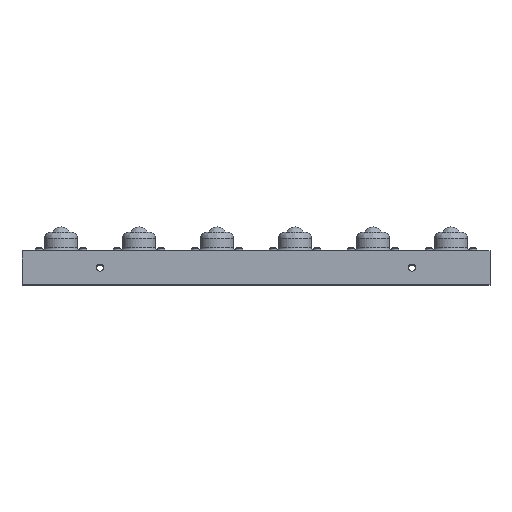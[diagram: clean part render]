
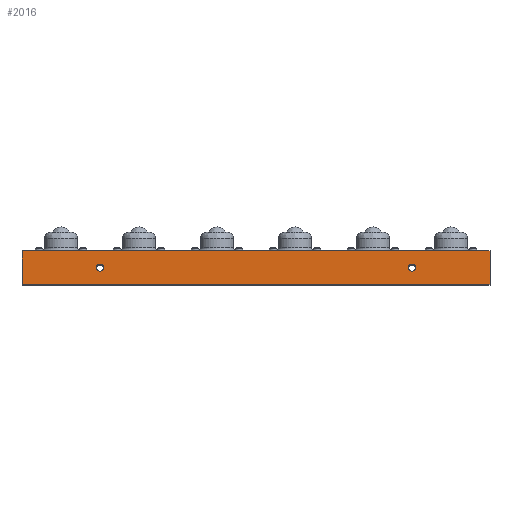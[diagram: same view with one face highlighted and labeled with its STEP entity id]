
A CAD part, top view. The second image highlights one B-rep face of the part: STEP entity #2016.
In plain terms, the highlighted planar face has unit normal (0, 0, 1).
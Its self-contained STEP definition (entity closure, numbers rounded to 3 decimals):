
#582 = EDGE_CURVE ( 'NONE', #2989, #5038, #9384, .T. ) ;
#655 = DIRECTION ( 'NONE',  ( 0., 0., -1. ) ) ;
#808 = CARTESIAN_POINT ( 'NONE',  ( -195.5, 21.5, 300. ) ) ;
#1063 = CARTESIAN_POINT ( 'NONE',  ( 195.5, 21.5, 300. ) ) ;
#1068 = DIRECTION ( 'NONE',  ( 0., 0., 1. ) ) ;
#1641 = VECTOR ( 'NONE', #7243, 1000. ) ;
#1719 = EDGE_CURVE ( 'NONE', #5038, #2989, #11793, .T. ) ;
#1766 = EDGE_LOOP ( 'NONE', ( #2983, #2296 ) ) ;
#1854 = EDGE_CURVE ( 'NONE', #9978, #4072, #1970, .T. ) ;
#1970 = LINE ( 'NONE', #2268, #1641 ) ;
#2016 = ADVANCED_FACE ( 'NONE', ( #8466, #5766, #6095 ), #9759, .F. ) ;
#2268 = CARTESIAN_POINT ( 'NONE',  ( 0., 43., 300. ) ) ;
#2296 = ORIENTED_EDGE ( 'NONE', *, *, #582, .F. ) ;
#2554 = EDGE_LOOP ( 'NONE', ( #9268, #8564 ) ) ;
#2556 = CARTESIAN_POINT ( 'NONE',  ( -300., 0., 300. ) ) ;
#2908 = CARTESIAN_POINT ( 'NONE',  ( -200., 21.5, 300. ) ) ;
#2983 = ORIENTED_EDGE ( 'NONE', *, *, #1719, .F. ) ;
#2989 = VERTEX_POINT ( 'NONE', #1063 ) ;
#3073 = CARTESIAN_POINT ( 'NONE',  ( 300., 43., 300. ) ) ;
#3266 = EDGE_CURVE ( 'NONE', #9978, #3696, #10123, .T. ) ;
#3605 = VECTOR ( 'NONE', #7226, 1000. ) ;
#3696 = VERTEX_POINT ( 'NONE', #4112 ) ;
#3768 = EDGE_CURVE ( 'NONE', #3696, #8408, #11713, .T. ) ;
#3931 = DIRECTION ( 'NONE',  ( 1., 0., 0. ) ) ;
#3944 = CARTESIAN_POINT ( 'NONE',  ( -300., 43., 300. ) ) ;
#4072 = VERTEX_POINT ( 'NONE', #3944 ) ;
#4112 = CARTESIAN_POINT ( 'NONE',  ( 300., 0., 300. ) ) ;
#4150 = CARTESIAN_POINT ( 'NONE',  ( 200., 21.5, 300. ) ) ;
#4427 = CARTESIAN_POINT ( 'NONE',  ( 300., 43., 300. ) ) ;
#4552 = CIRCLE ( 'NONE', #6277, 4.5 ) ;
#5038 = VERTEX_POINT ( 'NONE', #9597 ) ;
#5188 = EDGE_CURVE ( 'NONE', #5903, #5925, #4552, .T. ) ;
#5192 = DIRECTION ( 'NONE',  ( 1., 0., 0. ) ) ;
#5317 = EDGE_CURVE ( 'NONE', #5925, #5903, #6599, .T. ) ;
#5441 = DIRECTION ( 'NONE',  ( 0., -1., 0. ) ) ;
#5766 = FACE_OUTER_BOUND ( 'NONE', #8144, .T. ) ;
#5789 = CARTESIAN_POINT ( 'NONE',  ( -200., 21.5, 300. ) ) ;
#5853 = DIRECTION ( 'NONE',  ( 0., -1., 0. ) ) ;
#5903 = VERTEX_POINT ( 'NONE', #6841 ) ;
#5925 = VERTEX_POINT ( 'NONE', #808 ) ;
#6095 = FACE_BOUND ( 'NONE', #2554, .T. ) ;
#6277 = AXIS2_PLACEMENT_3D ( 'NONE', #5789, #12884, #6805 ) ;
#6599 = CIRCLE ( 'NONE', #11028, 4.5 ) ;
#6748 = CARTESIAN_POINT ( 'NONE',  ( 300., 43., 300. ) ) ;
#6805 = DIRECTION ( 'NONE',  ( 1., 0., 0. ) ) ;
#6841 = CARTESIAN_POINT ( 'NONE',  ( -204.5, 21.5, 300. ) ) ;
#7146 = CARTESIAN_POINT ( 'NONE',  ( 200., 21.5, 300. ) ) ;
#7182 = AXIS2_PLACEMENT_3D ( 'NONE', #6748, #655, #7769 ) ;
#7226 = DIRECTION ( 'NONE',  ( -1., 0., 0. ) ) ;
#7243 = DIRECTION ( 'NONE',  ( -1., 0., 0. ) ) ;
#7445 = VECTOR ( 'NONE', #5441, 1000. ) ;
#7769 = DIRECTION ( 'NONE',  ( -1., 0., 0. ) ) ;
#7898 = CARTESIAN_POINT ( 'NONE',  ( -300., 43., 300. ) ) ;
#8144 = EDGE_LOOP ( 'NONE', ( #8789, #9004, #9926, #10442 ) ) ;
#8179 = DIRECTION ( 'NONE',  ( 1., 0., 0. ) ) ;
#8246 = CARTESIAN_POINT ( 'NONE',  ( 300., 0., 300. ) ) ;
#8408 = VERTEX_POINT ( 'NONE', #2556 ) ;
#8466 = FACE_BOUND ( 'NONE', #1766, .T. ) ;
#8564 = ORIENTED_EDGE ( 'NONE', *, *, #5188, .F. ) ;
#8789 = ORIENTED_EDGE ( 'NONE', *, *, #3266, .F. ) ;
#9004 = ORIENTED_EDGE ( 'NONE', *, *, #1854, .T. ) ;
#9268 = ORIENTED_EDGE ( 'NONE', *, *, #5317, .F. ) ;
#9384 = CIRCLE ( 'NONE', #11162, 4.5 ) ;
#9421 = LINE ( 'NONE', #7898, #11826 ) ;
#9597 = CARTESIAN_POINT ( 'NONE',  ( 204.5, 21.5, 300. ) ) ;
#9710 = AXIS2_PLACEMENT_3D ( 'NONE', #7146, #1068, #8179 ) ;
#9759 = PLANE ( 'NONE',  #7182 ) ;
#9926 = ORIENTED_EDGE ( 'NONE', *, *, #12661, .T. ) ;
#9978 = VERTEX_POINT ( 'NONE', #3073 ) ;
#9988 = DIRECTION ( 'NONE',  ( 0., 0., 1. ) ) ;
#10123 = LINE ( 'NONE', #4427, #7445 ) ;
#10442 = ORIENTED_EDGE ( 'NONE', *, *, #3768, .F. ) ;
#11028 = AXIS2_PLACEMENT_3D ( 'NONE', #2908, #9988, #3931 ) ;
#11162 = AXIS2_PLACEMENT_3D ( 'NONE', #4150, #11244, #5192 ) ;
#11244 = DIRECTION ( 'NONE',  ( 0., 0., 1. ) ) ;
#11713 = LINE ( 'NONE', #8246, #3605 ) ;
#11793 = CIRCLE ( 'NONE', #9710, 4.5 ) ;
#11826 = VECTOR ( 'NONE', #5853, 1000. ) ;
#12661 = EDGE_CURVE ( 'NONE', #4072, #8408, #9421, .T. ) ;
#12884 = DIRECTION ( 'NONE',  ( 0., 0., 1. ) ) ;
